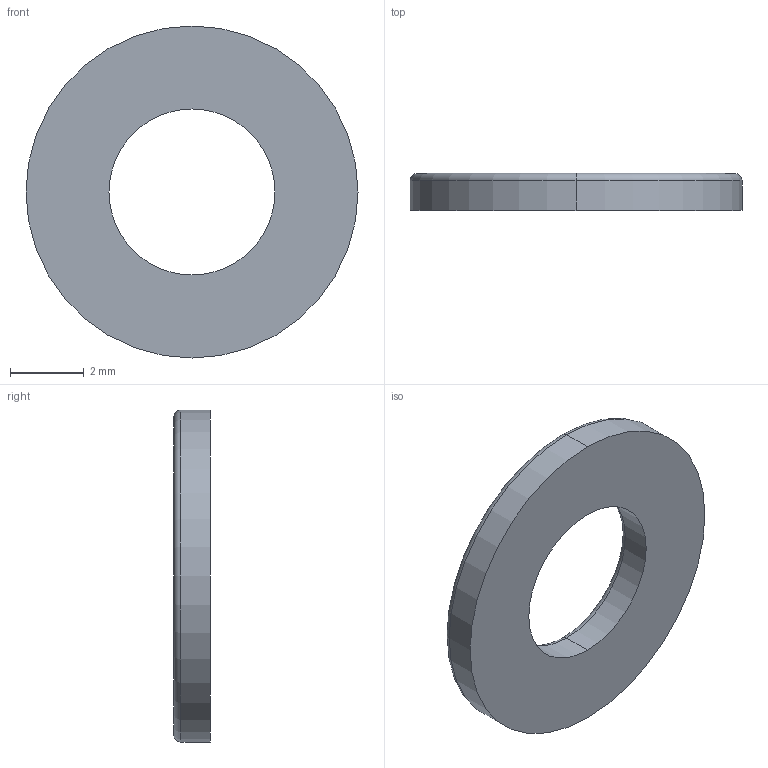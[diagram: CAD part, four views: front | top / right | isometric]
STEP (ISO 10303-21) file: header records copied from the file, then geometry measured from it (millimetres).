
FILE_DESCRIPTION (( 'STEP AP203' ), '1' );
FILE_NAME ('155-CE-FG-4.STEP', '2015-07-09T09:08:13', ( '' ), ( '' ), 'SwSTEP 2.0', 'SolidWorks 2013', '' );
FILE_SCHEMA (( 'CONFIG_CONTROL_DESIGN' ));
Length unit declared in the file: millimetre
Products named in the file (1): 155-CE-FG-4
Bounding box: 9 x 1 x 9 mm (x, y, z)
Volume: 47.3 mm3; surface area: 134.2 mm2
Topology: 1 solids, 1 shells, 10 faces, 20 edges, 12 vertices
Faces by surface type: torus 4, cylinder 4, plane 2
Entity records: 349 total; most frequent: DIRECTION 58, CARTESIAN_POINT 43, ORIENTED_EDGE 40, AXIS2_PLACEMENT_3D 27, EDGE_CURVE 20, CIRCLE 16, EDGE_LOOP 12, VERTEX_POINT 12
